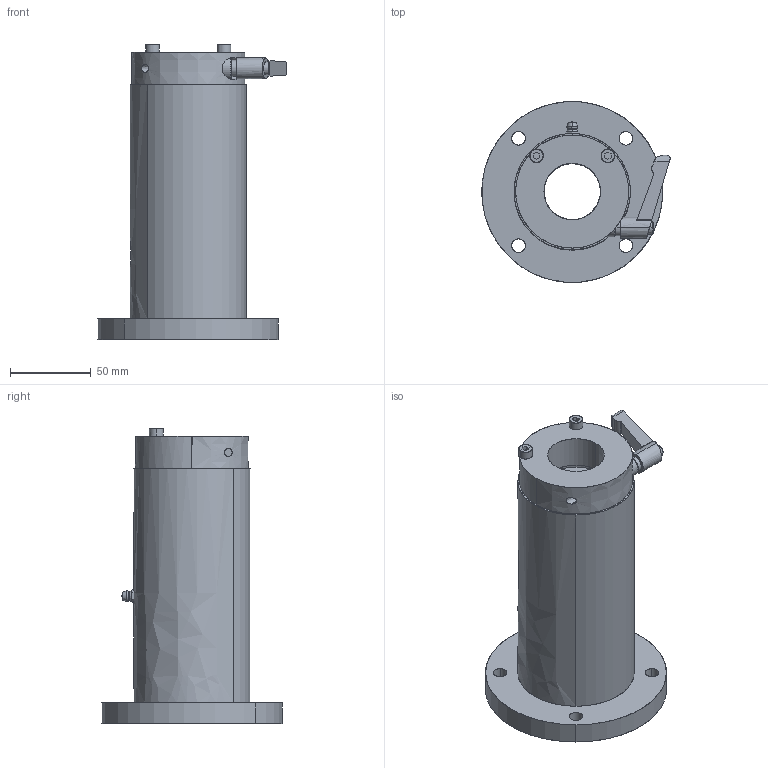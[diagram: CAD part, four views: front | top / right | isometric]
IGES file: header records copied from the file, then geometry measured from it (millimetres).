
Start section: SolidWorks IGES file using analytic representation for surfaces
Global section: file name: C:\Users\yamad\Desktop\IGES\LFW35-OH-C.IGS; native system: SolidWorks 2019; preprocessor: SolidWorks 2019; author: yamad; date: 230626.170800; units: millimetre
Bounding box: 116.7 x 112 x 183 mm (x, y, z)
Surface area: 102523.8 mm2 (no closed solid volume)
Topology: 0 solids, 0 shells, 226 faces, 5915 edges, 5913 vertices
Faces by surface type: bspline 122, revolution 104
